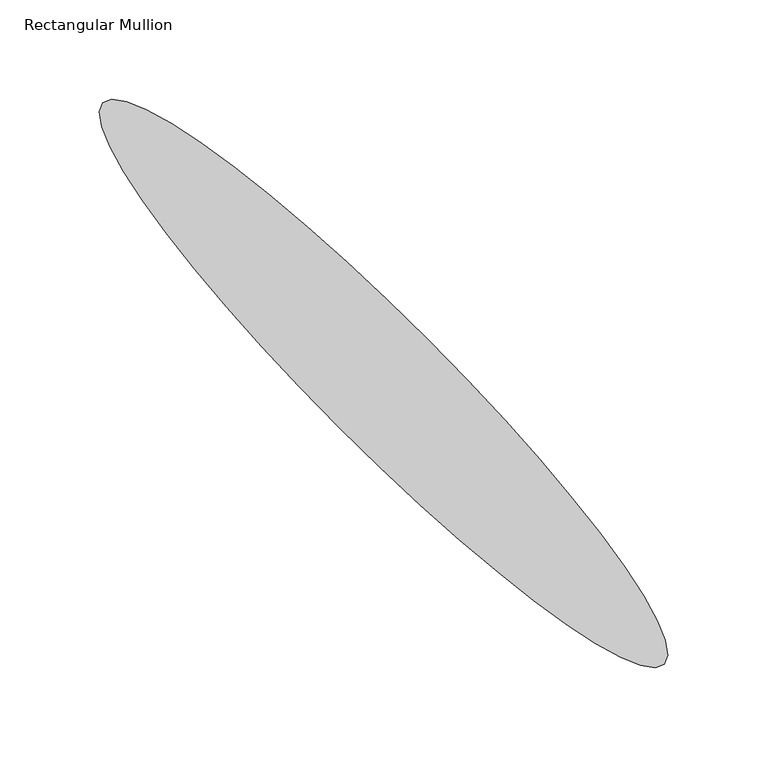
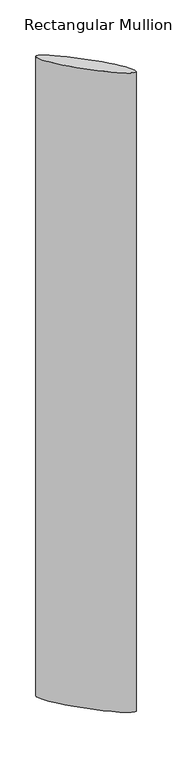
"""IFC4 building model written with IfcOpenShell, lengths in millimetres: member geometry, Rectangular Mullion : RSen_21_CWM_blade - 400 ellips - 45°_gen_duco projects."""

from ifc_helpers import new_model, si_unit, point, frame, origin, place, context, project, spatial, ellipse_curve, trimmed, source, transform, mapped, element, save
from ifc_brep_helpers import plane_surface, extruded_surface, advanced_brep


def rectangular_mullion_d3fee28a(model_context):
    return source(origin(), model_context, "Body", "AdvancedBrep", [
        advanced_brep(
        [(141.4213562, 43.5786438, 0.0), (-141.4213562, 326.4213562, 0.0), (141.4213562, 43.5786438, -3000.0), (-141.4213562, 326.4213562, -3000.0)],
        [
            (0, 1, ellipse_curve(frame((0.0, 185.0, 0.0), z_axis=(0.0, 0.0, 1.0000000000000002), x_axis=(-0.7071067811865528, 0.7071067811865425, 0.0)), 200.0, 31.5)),
            (1, 0, ellipse_curve(frame((0.0, 185.0, 0.0), z_axis=(0.0, 0.0, 1.0000000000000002), x_axis=(-0.7071067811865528, 0.7071067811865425, 0.0)), 200.0, 31.5)),
            (2, 3, ellipse_curve(frame((0.0, 185.0, -3000.0), z_axis=(0.0, 0.0, -1.0000000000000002), x_axis=(-0.7071067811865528, 0.7071067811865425, 0.0)), 200.0, 31.5)),
            (3, 2, ellipse_curve(frame((0.0, 185.0, -3000.0), z_axis=(0.0, 0.0, -1.0000000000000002), x_axis=(-0.7071067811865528, 0.7071067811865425, 0.0)), 200.0, 31.5)),
            (0, 2),
            (3, 1),
        ],
        [
            plane_surface(frame((0.0, -355.7399356, 0.0), z_axis=(0.0, 0.0, 1.0), x_axis=(-1.0, 0.0, 0.0))),
            plane_surface(frame((0.0, -355.7399356, -3000.0), z_axis=(0.0, 0.0, -1.0), x_axis=(-1.0, 0.0, 0.0))),
            extruded_surface(trimmed(ellipse_curve(frame((0.0, 185.0, -3000.0), z_axis=(0.0, 0.0, 1.0000000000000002), x_axis=(-0.7071067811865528, 0.7071067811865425, 0.0)), 200.0, 31.5), [point((141.4213562, 43.5786438, -3000.0))], [point((-141.4213562, 326.4213562, -3000.0))], True, "CARTESIAN"), (0.0, 0.0, 3000.0), 3000.0),
            extruded_surface(trimmed(ellipse_curve(frame((0.0, 185.0, -3000.0), z_axis=(0.0, 0.0, 1.0000000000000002), x_axis=(-0.7071067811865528, 0.7071067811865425, 0.0)), 200.0, 31.5), [point((-141.4213562, 326.4213562, -3000.0))], [point((141.4213562, 43.5786438, -3000.0))], True, "CARTESIAN"), (0.0, 0.0, 3000.0), 3000.0),
        ],
        [
            (0, [[1, 2]]),
            (1, [[3, 4]]),
            (2, [[-1, 5, -4, 6]]),
            (3, [[-2, -6, -3, -5]]),
        ],
    ),
    ])


if __name__ == "__main__":
    model = new_model("IFC4")
    model_context = context("Model", 3, world=origin())
    ifc_project = project(units=[si_unit("LENGTHUNIT", "METRE", prefix="MILLI")], contexts=[model_context])
    site = spatial("IfcSite", under=ifc_project)
    building = spatial("IfcBuilding", under=site)
    placement = place(None, origin())
    rectangular_mullion_shape = rectangular_mullion_d3fee28a(model_context)
    element("IfcMember", 1, ObjectType="Rectangular Mullion : RSen_21_CWM_blade - 400 ellips - 45°_gen_duco projects", at=placement, inside=building, context=model_context, shape_type="MappedRepresentation", body=[
        mapped(rectangular_mullion_shape, transform((0.0, 0.0, 0.0), x_axis=(1.0, 0.0, 0.0), y_axis=(0.0, 1.0, 0.0), z_axis=(0.0, 0.0, 1.0))),
    ])
    save(model, "model.ifc")
